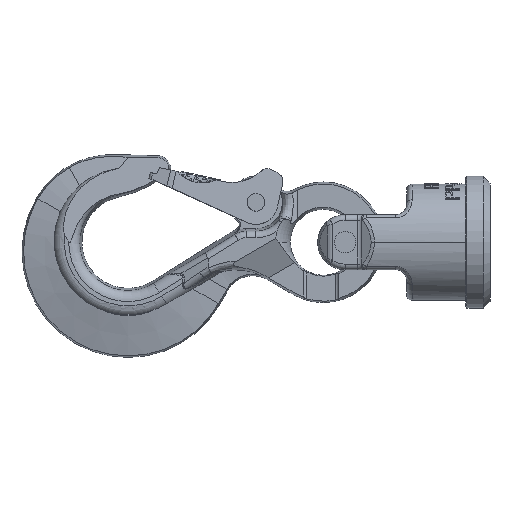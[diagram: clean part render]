
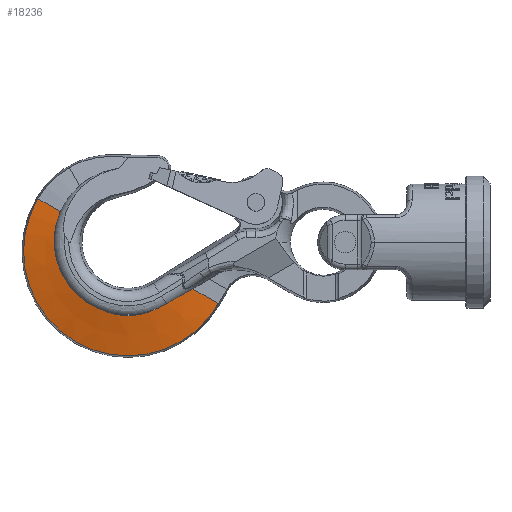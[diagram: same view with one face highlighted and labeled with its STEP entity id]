
A CAD part, top view. The second image highlights one B-rep face of the part: STEP entity #18236.
In plain terms, the highlighted conical face has half-angle 76 degrees and reference radius 38.424 mm.
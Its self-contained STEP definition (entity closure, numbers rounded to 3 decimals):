
#14443=CARTESIAN_POINT('',(21.257,7.787,
-29.543));
#14645=CARTESIAN_POINT('',(4.2,4.425,0.));
#14646=DIRECTION('',(0.,-1.,0.));
#14647=DIRECTION('',(0.5,0.,-0.866));
#14648=AXIS2_PLACEMENT_3D('',#14645,#14646,#14647);
#14650=CARTESIAN_POINT('',(-13.89,7.379,
30.835));
#14651=CARTESIAN_POINT('',(-12.755,7.415,
31.334));
#14652=CARTESIAN_POINT('',(-10.422,7.489,
32.211));
#14653=CARTESIAN_POINT('',(-6.773,7.607,
33.133));
#14654=CARTESIAN_POINT('',(-3.038,7.731,
33.637));
#14655=CARTESIAN_POINT('',(0.705,7.858,
33.716));
#14656=CARTESIAN_POINT('',(4.399,7.986,33.382));
#14657=CARTESIAN_POINT('',(8.057,8.117,32.633));
#14658=CARTESIAN_POINT('',(11.623,8.248,31.471));
#14659=CARTESIAN_POINT('',(15.017,8.377,29.924));
#14660=CARTESIAN_POINT('',(18.208,8.501,28.015));
#14661=CARTESIAN_POINT('',(21.171,8.62,25.758));
#14662=CARTESIAN_POINT('',(23.878,8.732,23.169));
#14663=CARTESIAN_POINT('',(26.278,8.835,20.295));
#14664=CARTESIAN_POINT('',(28.348,8.926,17.163));
#14665=CARTESIAN_POINT('',(29.49,8.977,14.93));
#14666=CARTESIAN_POINT('',(29.998,9.,13.783));
#14668=CARTESIAN_POINT('',(29.998,9.,-13.783));
#14669=CARTESIAN_POINT('',(29.712,8.987,
-14.428));
#14670=CARTESIAN_POINT('',(29.101,8.959,
-15.7));
#14671=CARTESIAN_POINT('',(28.413,8.929,
-16.926));
#14672=CARTESIAN_POINT('',(28.051,8.913,
-17.528));
#14674=CARTESIAN_POINT('',(28.051,8.913,
-17.528));
#14675=CARTESIAN_POINT('',(27.708,8.898,
-18.097));
#14676=CARTESIAN_POINT('',(27.05,8.855,
-19.208));
#14677=CARTESIAN_POINT('',(26.143,8.762,
-20.778));
#14678=CARTESIAN_POINT('',(25.288,8.646,
-22.287));
#14679=CARTESIAN_POINT('',(24.468,8.51,
-23.754));
#14680=CARTESIAN_POINT('',(23.662,8.355,
-25.207));
#14681=CARTESIAN_POINT('',(22.862,8.183,
-26.654));
#14682=CARTESIAN_POINT('',(22.063,7.994,
-28.096));
#14683=CARTESIAN_POINT('',(21.526,7.858,
-29.061));
#14684=CARTESIAN_POINT('',(21.257,7.787,
-29.543));
#14686=DIRECTION('',(0.485,-0.242,-0.84));
#14687=VECTOR('',#14686,13.898);
#14688=CARTESIAN_POINT('',(21.257,7.787,
-29.543));
#14689=LINE('',#14688,#14687);
#14690=DIRECTION('',(-0.491,-0.242,0.837));
#14691=VECTOR('',#14690,12.213);
#14692=CARTESIAN_POINT('',(-13.89,7.379,
30.835));
#14693=LINE('',#14692,#14691);
#14702=CARTESIAN_POINT('',(4.2,9.,0.));
#14703=DIRECTION('',(0.,-1.,0.));
#14704=DIRECTION('',(0.882,0.,-0.471));
#14705=AXIS2_PLACEMENT_3D('',#14702,#14703,#14704);
#15009=CARTESIAN_POINT('',(28.,4.425,
-41.222));
#15011=VERTEX_POINT('',#15009);
#15012=CARTESIAN_POINT('',(-19.886,4.425,
41.055));
#15013=VERTEX_POINT('',#15012);
#15061=CARTESIAN_POINT('',(-13.89,7.379,
30.835));
#15062=VERTEX_POINT('',#15061);
#15063=CARTESIAN_POINT('',(29.998,9.,-13.783));
#15064=CARTESIAN_POINT('',(29.998,9.,13.783));
#15065=VERTEX_POINT('',#15063);
#15066=VERTEX_POINT('',#15064);
#15072=VERTEX_POINT('',#14443);
#15073=VERTEX_POINT('',#14674);
#18220=CARTESIAN_POINT('',(4.2,6.712,0.));
#18221=DIRECTION('',(0.,-1.,0.));
#18222=DIRECTION('',(-0.5,0.,0.866));
#18223=AXIS2_PLACEMENT_3D('',#18220,#18221,#18222);
#18224=CONICAL_SURFACE('',#18223,38.424,76.);
#18226=ORIENTED_EDGE('',*,*,#18225,.F.);
#18227=ORIENTED_EDGE('',*,*,#17381,.T.);
#18229=ORIENTED_EDGE('',*,*,#18228,.F.);
#18230=ORIENTED_EDGE('',*,*,#17377,.T.);
#18231=ORIENTED_EDGE('',*,*,#17906,.T.);
#18232=ORIENTED_EDGE('',*,*,#18027,.T.);
#18233=ORIENTED_EDGE('',*,*,#18214,.T.);
#18234=EDGE_LOOP('',(#18226,#18227,#18229,#18230,#18231,#18232,#18233));
#18235=FACE_OUTER_BOUND('',#18234,.F.);
#18236=ADVANCED_FACE('',(#18235),#18224,.T.);
#14649=CIRCLE('',#14648,47.599);
#14667=B_SPLINE_CURVE_WITH_KNOTS('',3,(#14650,#14651,#14652,#14653,#14654,
#14655,#14656,#14657,#14658,#14659,#14660,#14661,#14662,#14663,#14664,#14665,
#14666),.UNSPECIFIED.,.F.,.F.,(4,1,1,1,1,1,1,1,1,1,1,1,1,1,4),(0.,
0.071,0.143,0.214,0.286,
0.357,0.429,0.5,0.571,0.643,
0.714,0.786,0.857,0.929,1.),
.UNSPECIFIED.);
#14673=B_SPLINE_CURVE_WITH_KNOTS('',3,(#14668,#14669,#14670,#14671,#14672),
.UNSPECIFIED.,.F.,.F.,(4,1,4),(0.,0.5,1.),.UNSPECIFIED.);
#14685=B_SPLINE_CURVE_WITH_KNOTS('',3,(#14674,#14675,#14676,#14677,#14678,
#14679,#14680,#14681,#14682,#14683,#14684),.UNSPECIFIED.,.F.,.F.,(4,1,1,1,1,1,1,
1,4),(0.,0.125,0.25,0.375,0.5,0.625,0.75,0.875,1.),
.UNSPECIFIED.);
#14706=CIRCLE('',#14705,29.249);
#17377=EDGE_CURVE('',#15065,#15073,#14673,.T.);
#17381=EDGE_CURVE('',#15062,#15066,#14667,.T.);
#17906=EDGE_CURVE('',#15073,#15072,#14685,.T.);
#18027=EDGE_CURVE('',#15072,#15011,#14689,.T.);
#18214=EDGE_CURVE('',#15011,#15013,#14649,.T.);
#18225=EDGE_CURVE('',#15062,#15013,#14693,.T.);
#18228=EDGE_CURVE('',#15065,#15066,#14706,.T.);
